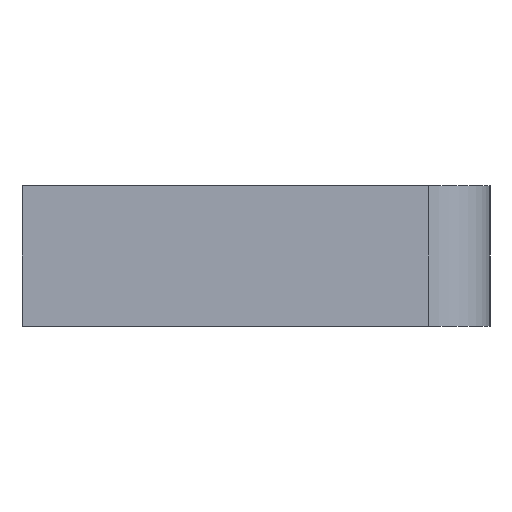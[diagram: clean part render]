
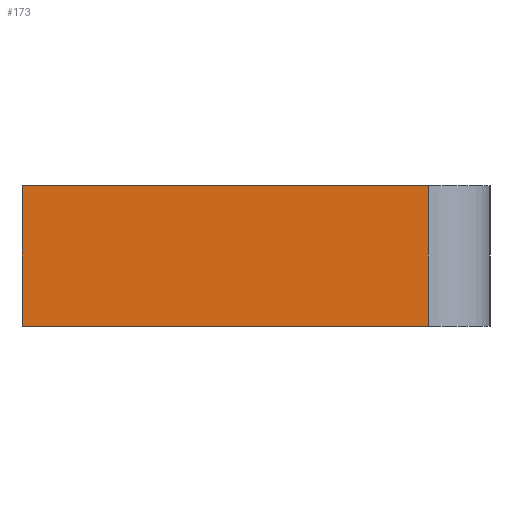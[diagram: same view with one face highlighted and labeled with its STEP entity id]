
A CAD part, left-side view. The second image highlights one B-rep face of the part: STEP entity #173.
In plain terms, the highlighted planar face has unit normal (-1, -0.009, 0).
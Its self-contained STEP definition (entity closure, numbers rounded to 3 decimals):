
#173 = ADVANCED_FACE( '', ( #443 ), #444, .T. );
#183 = EDGE_CURVE( '', #357, #389, #455, .T. );
#237 = VERTEX_POINT( '', #515 );
#313 = EDGE_CURVE( '', #237, #387, #599, .T. );
#337 = EDGE_CURVE( '', #389, #387, #628, .T. );
#357 = VERTEX_POINT( '', #653 );
#387 = VERTEX_POINT( '', #686 );
#389 = VERTEX_POINT( '', #688 );
#403 = EDGE_CURVE( '', #357, #237, #703, .T. );
#443 = FACE_OUTER_BOUND( '', #743, .T. );
#444 = PLANE( '', #744 );
#455 = LINE( '', #760, #761 );
#515 = CARTESIAN_POINT( '', ( -3.773, -26.035, 4.5 ) );
#599 = LINE( '', #953, #954 );
#628 = LINE( '', #990, #991 );
#653 = CARTESIAN_POINT( '', ( -4., 0., 4.5 ) );
#686 = CARTESIAN_POINT( '', ( -3.773, -26.035, -4.5 ) );
#688 = CARTESIAN_POINT( '', ( -4., 0., -4.5 ) );
#703 = LINE( '', #1087, #1088 );
#743 = EDGE_LOOP( '', ( #1111, #1112, #1113, #1114 ) );
#744 = AXIS2_PLACEMENT_3D( '', #1115, #1116, #1117 );
#760 = CARTESIAN_POINT( '', ( -4., 0., 4.5 ) );
#761 = VECTOR( '', #1128, 1. );
#953 = CARTESIAN_POINT( '', ( -3.773, -26.035, 4.5 ) );
#954 = VECTOR( '', #1291, 1. );
#990 = CARTESIAN_POINT( '', ( -4., 0., -4.5 ) );
#991 = VECTOR( '', #1335, 1. );
#1087 = CARTESIAN_POINT( '', ( -4., 0., 4.5 ) );
#1088 = VECTOR( '', #1422, 1. );
#1111 = ORIENTED_EDGE( '', *, *, #337, .T. );
#1112 = ORIENTED_EDGE( '', *, *, #313, .F. );
#1113 = ORIENTED_EDGE( '', *, *, #403, .F. );
#1114 = ORIENTED_EDGE( '', *, *, #183, .T. );
#1115 = CARTESIAN_POINT( '', ( -4., 0., 4.5 ) );
#1116 = DIRECTION( '', ( -1., -0.009, 0. ) );
#1117 = DIRECTION( '', ( -0.009, 1., 0. ) );
#1128 = DIRECTION( '', ( 0., 0., -1. ) );
#1291 = DIRECTION( '', ( 0., 0., -1. ) );
#1335 = DIRECTION( '', ( 0.009, -1., 0. ) );
#1422 = DIRECTION( '', ( 0.009, -1., 0. ) );
